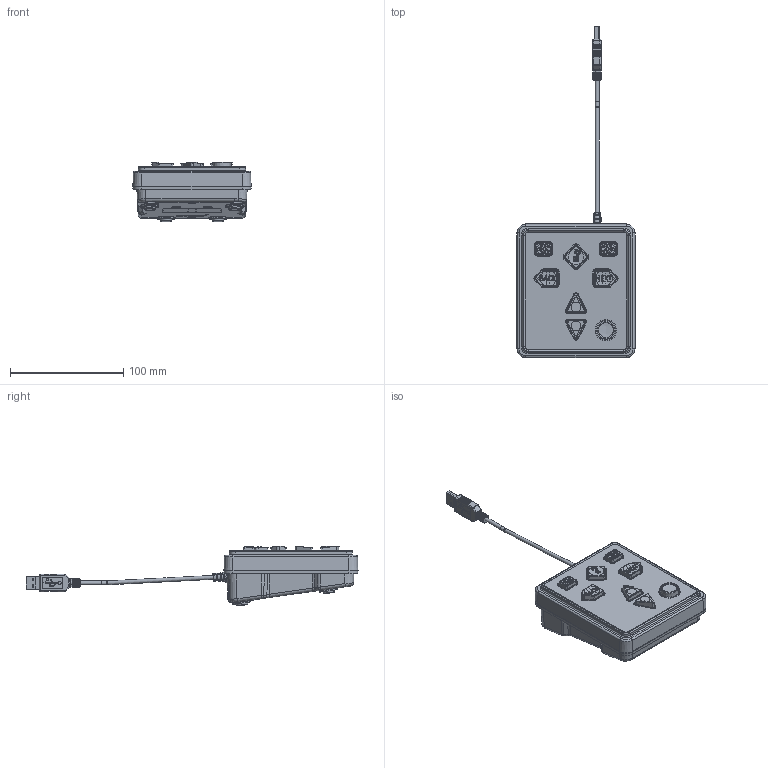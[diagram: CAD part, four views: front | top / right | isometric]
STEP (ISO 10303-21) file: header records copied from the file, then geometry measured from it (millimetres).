
FILE_DESCRIPTION (( 'STEP AP214' ), '1' );
FILE_NAME ('EZ08-22200~1.STEP', '2020-01-06T09:04:45', ( '' ), ( '' ), 'SwSTEP 2.0', 'SolidWorks 2018', '' );
FILE_SCHEMA (( 'AUTOMOTIVE_DESIGN' ));
Length unit declared in the file: millimetre
Products named in the file (2): EZ08-22200~1
Bounding box: 104.5 x 293.47 x 53.01 mm (x, y, z)
Volume: 277372.3 mm3; surface area: 118574.2 mm2
Topology: 21 solids, 40 shells, 3389 faces, 8769 edges, 5468 vertices
Faces by surface type: plane 1716, cylinder 627, bspline 432, cone 329, torus 149, sphere 136
Full cylindrical faces by diameter (mm): 1 x1, 1.5 x1, 2.5 x1, 3 x4, 3.4 x1, 3.404 x6, 7.5 x1, 12.7 x4, 13.5 x4, 15.5 x4
Entity records: 158593 total; most frequent: CARTESIAN_POINT 44336, ORIENTED_EDGE 16896, DIRECTION 14890, EDGE_CURVE 8448, VERTEX_POINT 5361, AXIS2_PLACEMENT_3D 5066, LINE 4758, VECTOR 4758
